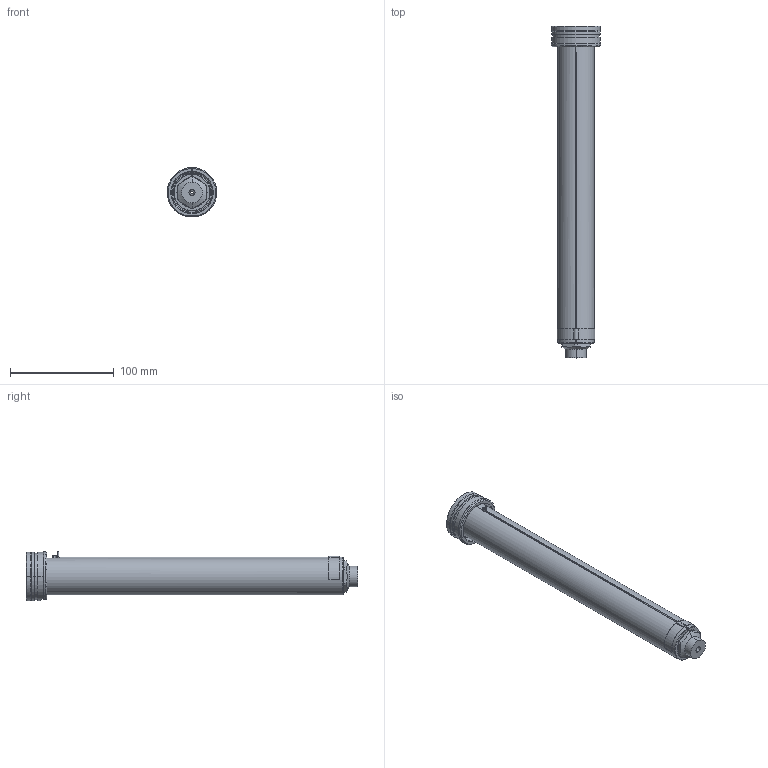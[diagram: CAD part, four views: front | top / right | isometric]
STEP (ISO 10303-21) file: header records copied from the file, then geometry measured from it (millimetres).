
FILE_DESCRIPTION((''),'2;1');
FILE_NAME('EO16_SG_SG_300_SW','2024-02-19T12:34:13',('sundharh'),(''),'CREO PARAMETRIC BY PTC INC, 2023154','CREO PARAMETRIC BY PTC INC, 2023154','');
FILE_SCHEMA(('CONFIG_CONTROL_DESIGN'));
Length unit declared in the file: millimetre
Products named in the file (1): EO16_SG_SG_300_SW
Bounding box: 47.97 x 320 x 48 mm (x, y, z)
Volume: 259181.2 mm3; surface area: 59594.9 mm2
Topology: 1 solids, 1 shells, 164 faces, 410 edges, 252 vertices
Faces by surface type: cylinder 64, plane 45, cone 31, torus 14, bspline 7, sphere 3
Entity records: 5735 total; most frequent: CARTESIAN_POINT 1744, DIRECTION 884, ORIENTED_EDGE 804, EDGE_CURVE 402, AXIS2_PLACEMENT_3D 365, VERTEX_POINT 252, CIRCLE 208, EDGE_LOOP 180
